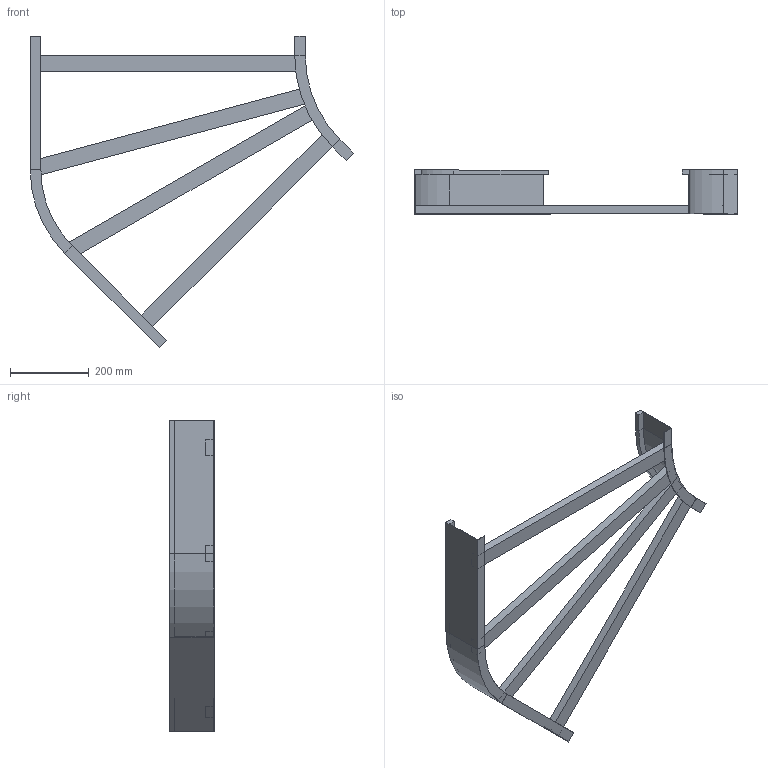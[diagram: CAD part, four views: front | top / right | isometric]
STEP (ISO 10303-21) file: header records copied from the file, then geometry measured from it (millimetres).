
FILE_DESCRIPTION (( 'STEP AP214' ), '1' );
FILE_NAME ('B2_11B3J700.step', '2025-02-21T15:15:04', ( '' ), ( '' ), 'SwSTEP 2.0', 'SolidWorks 2023', '' );
FILE_SCHEMA (( 'AUTOMOTIVE_DESIGN' ));
Length unit declared in the file: millimetre
Products named in the file (5): B2_11B3J700; B2_LONGH.INTERNO 45°_H112.5_R300; TRAVERSINO_800_SCANTONATO; B2_LONGH.ESTERNO 45°_H112.5_R300+700; TRAVERSINO_700
Assembly tree (6 placements, depth 2):
  B2_11B3J700
    B2_LONGH.INTERNO 45°_H112.5_R300
    B2_LONGH.ESTERNO 45°_H112.5_R300+700
    TRAVERSINO_700  x2
    TRAVERSINO_800_SCANTONATO  x2
Bounding box: 823.22 x 112.5 x 792.46 mm (x, y, z)
Volume: 2904624 mm3; surface area: 744121.6 mm2
Topology: 6 solids, 6 shells, 76 faces, 160 edges, 96 vertices
Faces by surface type: plane 68, cylinder 8
Entity records: 1830 total; most frequent: DIRECTION 298, CARTESIAN_POINT 289, ORIENTED_EDGE 272, EDGE_CURVE 136, VECTOR 120, LINE 120, AXIS2_PLACEMENT_3D 89, VERTEX_POINT 80
